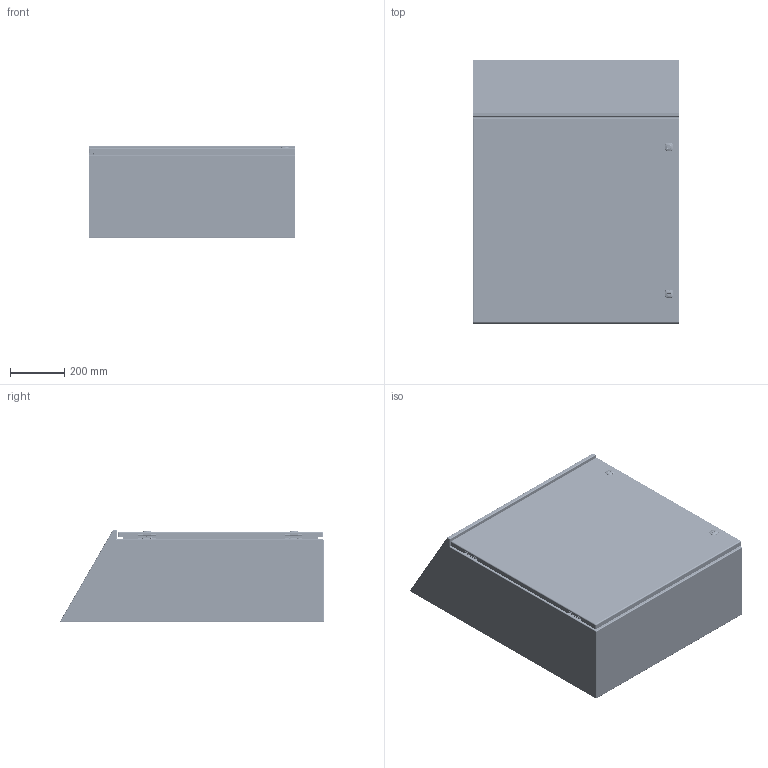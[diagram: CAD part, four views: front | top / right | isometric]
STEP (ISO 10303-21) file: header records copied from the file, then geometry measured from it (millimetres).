
FILE_DESCRIPTION(/* description */ ('5412ESSCET 30" x 30" x 12" Assembly'),/* implementation_level */ '2;1');
FILE_NAME(/* name */ 'C:\Vault_Workspace\Inventor_Dwg\BoxCad\Result\5412ESSCET303012\e-mail\3D\5412ESSCET303012.stp',/* time_stamp */ '2022-07-15T02:06:38-04:00',/* author */ ('BoxCad'),/* organization */ (''),/* preprocessor_version */ 'ST-DEVELOPER v18.1',/* originating_system */ 'Autodesk Inventor 2020',/* authorisation */ '');
FILE_SCHEMA (('AUTOMOTIVE_DESIGN { 1 0 10303 214 3 1 1 }'));
Products named in the file (42): 5412ESSCET303012; 5412ESSCET303012B; 5412ESSCET303012B-P; STK-Q-16020; STUD_SS_M6 x 16mm; STK-Q-07610; 881SP3030G; 881SP3030G-P; STK-Q-07310; 5412ESSCET303012C; 5412ESSCET303012C-P; 5412ESSCET303012G; STK-A-33016-1; STK-A-33016-2; STK-Q-33016-A; STK-Q-90261; STK-Q-40096; STK-Q-33016-B; STK-Q-16070; STK-Q-46020-30; STK-Q-07220-1; STK-Q-07220-2; STK-Q-07220-3; STK-Q-07220-4; STK-Q-07220-A; STK-Q-07220-B; STK-A-880SCQ4-SLSS6-1; STK-A-880SCQ4-SLSS6-2; STK-Q-70621; STK-Q-70631; STK-Q-78145; STK-Q-03200; STK-Q-78125; STK-Q-90390; STK-Q-78160; STK-Q-78141; STK-Q-04051-07-1(1); STK-Q-04051-07-2; STK-Q-04051-07-P; STK-Q-04051-N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
Assembly tree (78 placements, depth 4):
  5412ESSCET303012
    5412ESSCET303012B
      5412ESSCET303012B-P
      STK-Q-16020  x4
      STUD_SS_M6 x 16mm
    STK-Q-07610  x4
    881SP3030G
      881SP3030G-P
    STK-Q-07310  x4
    5412ESSCET303012C
      5412ESSCET303012C-P
      5412ESSCET303012G
      STK-A-33016-1
        STK-Q-33016-A
        STK-Q-90261
        STK-Q-40096  x2
        STK-Q-33016-B  x2
      STK-A-33016-2
        STK-Q-33016-A
        STK-Q-90261
        STK-Q-40096  x2
        STK-Q-33016-B  x2
      STK-Q-16070  x4
      STK-Q-46020-30  x2
      STK-Q-07220-1
        STK-Q-07220-A
        STK-Q-07220-B
      STK-Q-07220-2
        STK-Q-07220-A
        STK-Q-07220-B
      STK-Q-07220-3
        STK-Q-07220-A
        STK-Q-07220-B
      STK-Q-07220-4
        STK-Q-07220-A
        STK-Q-07220-B
      STK-A-880SCQ4-SLSS6-1
        STK-Q-70621
        STK-Q-70631
        STK-Q-78145
        STK-Q-03200
        STK-Q-78125
        STK-Q-90390
        STK-Q-78160
        STK-Q-78141
      STK-A-880SCQ4-SLSS6-2
        STK-Q-70621
        STK-Q-70631
        STK-Q-78145
        STK-Q-03200
        STK-Q-78125
        STK-Q-90390
        STK-Q-78160
        STK-Q-78141
    STK-Q-04051-07-1(1)
      STK-Q-04051-07-P
      STK-Q-04051-N
    STK-Q-04051-07-2
      STK-Q-04051-07-P
      STK-Q-04051-N
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Bounding box: 762.16 x 972.01 x 339.97 mm (x, y, z)
Volume: 6188306.8 mm3; surface area: 6563221.3 mm2
Topology: 63 solids, 63 shells, 9224 faces, 25228 edges, 16265 vertices
Faces by surface type: bspline 3332, plane 2975, cylinder 2216, torus 391, sphere 180, cone 130
Full cylindrical faces by diameter (mm): 0 x1, 0.75 x9, 0.762 x9, 1 x8, 1.125 x4, 3.2 x4, 4.191 x52, 4.5 x4, 4.85 x16, 5 x4, 5.1 x40, 5.9 x29, 6 x2, 6.015 x52, 6.655 x4, 6.8 x4, 6.85 x16, 7.1 x2, 7.112 x4, 7.366 x6, 8 x12, 9 x4, 9.5 x4, 9.6 x2, 9.906 x4, 10 x2, 12 x2, 12.8 x2, 13 x2, 15.9 x2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
Entity records: 149270 total; most frequent: CARTESIAN_POINT 62614, ORIENTED_EDGE 20176, DIRECTION 13707, EDGE_CURVE 10088, VERTEX_POINT 6501, AXIS2_PLACEMENT_3D 4755, LINE 4197, VECTOR 4197
